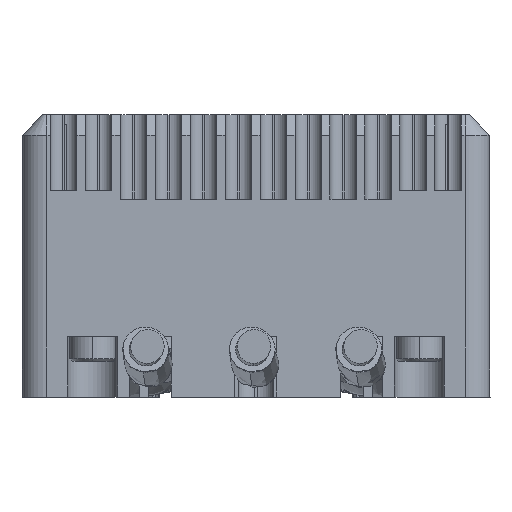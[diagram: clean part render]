
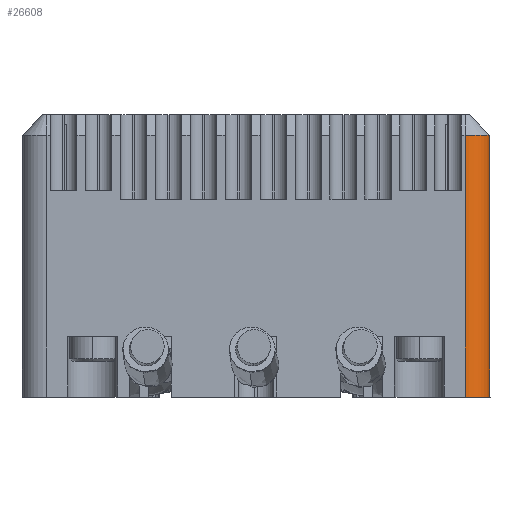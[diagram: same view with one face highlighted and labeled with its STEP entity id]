
A CAD part, left-side view. The second image highlights one B-rep face of the part: STEP entity #26608.
In plain terms, the highlighted cylindrical face has radius 3 mm (diameter 6 mm), a partial arc.
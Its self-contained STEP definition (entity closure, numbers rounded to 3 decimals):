
#442 = EDGE_CURVE ( 'NONE', #28798, #45400, #49442, .T. ) ;
#1954 = CARTESIAN_POINT ( 'NONE',  ( -20.775, 36.536, 83.399 ) ) ;
#4935 = LINE ( 'NONE', #43516, #47250 ) ;
#6510 = CARTESIAN_POINT ( 'NONE',  ( -17.775, 33.536, 83.399 ) ) ;
#6698 = DIRECTION ( 'NONE',  ( 0., 0., -1. ) ) ;
#9267 = DIRECTION ( 'NONE',  ( -1., 0., 0. ) ) ;
#9897 = ORIENTED_EDGE ( 'NONE', *, *, #29771, .T. ) ;
#10381 = ORIENTED_EDGE ( 'NONE', *, *, #55938, .F. ) ;
#12160 = EDGE_CURVE ( 'NONE', #28798, #43832, #39301, .T. ) ;
#14175 = DIRECTION ( 'NONE',  ( 1., 0., 0. ) ) ;
#14704 = EDGE_CURVE ( 'NONE', #29870, #45400, #4935, .T. ) ;
#20931 = CARTESIAN_POINT ( 'NONE',  ( -17.775, 33.536, 96.199 ) ) ;
#21536 = DIRECTION ( 'NONE',  ( -1., 0., 0. ) ) ;
#22667 = CARTESIAN_POINT ( 'NONE',  ( -17.775, 33.536, 111.502 ) ) ;
#22686 = LINE ( 'NONE', #64430, #65122 ) ;
#24608 = ORIENTED_EDGE ( 'NONE', *, *, #14704, .T. ) ;
#25478 = VERTEX_POINT ( 'NONE', #1954 ) ;
#26608 = ADVANCED_FACE ( 'NONE', ( #47175 ), #30177, .T. ) ;
#27226 = DIRECTION ( 'NONE',  ( 0., 0., 1. ) ) ;
#28798 = VERTEX_POINT ( 'NONE', #67234 ) ;
#29771 = EDGE_CURVE ( 'NONE', #25478, #29870, #49703, .T. ) ;
#29870 = VERTEX_POINT ( 'NONE', #6510 ) ;
#30143 = DIRECTION ( 'NONE',  ( 0., 0., -1. ) ) ;
#30177 = CYLINDRICAL_SURFACE ( 'NONE', #52841, 3. ) ;
#36743 = ORIENTED_EDGE ( 'NONE', *, *, #12160, .T. ) ;
#38230 = DIRECTION ( 'NONE',  ( 0., 0., 1. ) ) ;
#39301 = CIRCLE ( 'NONE', #52631, 3. ) ;
#40959 = CARTESIAN_POINT ( 'NONE',  ( -17.775, 36.536, 92.199 ) ) ;
#43073 = ORIENTED_EDGE ( 'NONE', *, *, #442, .F. ) ;
#43516 = CARTESIAN_POINT ( 'NONE',  ( -17.775, 33.536, 92.699 ) ) ;
#43712 = CARTESIAN_POINT ( 'NONE',  ( -20.775, 36.536, 114.846 ) ) ;
#43832 = VERTEX_POINT ( 'NONE', #43712 ) ;
#45400 = VERTEX_POINT ( 'NONE', #20931 ) ;
#47175 = FACE_OUTER_BOUND ( 'NONE', #49911, .T. ) ;
#47250 = VECTOR ( 'NONE', #53269, 1000. ) ;
#47967 = CARTESIAN_POINT ( 'NONE',  ( -17.775, 36.536, 83.399 ) ) ;
#48910 = VECTOR ( 'NONE', #6698, 1000. ) ;
#49442 = LINE ( 'NONE', #22667, #48910 ) ;
#49703 = CIRCLE ( 'NONE', #59687, 3. ) ;
#49911 = EDGE_LOOP ( 'NONE', ( #43073, #36743, #10381, #9897, #24608 ) ) ;
#52631 = AXIS2_PLACEMENT_3D ( 'NONE', #62135, #30143, #9267 ) ;
#52841 = AXIS2_PLACEMENT_3D ( 'NONE', #40959, #56935, #14175 ) ;
#53269 = DIRECTION ( 'NONE',  ( 0., 0., 1. ) ) ;
#55938 = EDGE_CURVE ( 'NONE', #25478, #43832, #22686, .T. ) ;
#56935 = DIRECTION ( 'NONE',  ( 0., 0., 1. ) ) ;
#59687 = AXIS2_PLACEMENT_3D ( 'NONE', #47967, #38230, #21536 ) ;
#62135 = CARTESIAN_POINT ( 'NONE',  ( -17.775, 36.536, 114.846 ) ) ;
#64430 = CARTESIAN_POINT ( 'NONE',  ( -20.775, 36.536, 92.199 ) ) ;
#65122 = VECTOR ( 'NONE', #27226, 1000. ) ;
#67234 = CARTESIAN_POINT ( 'NONE',  ( -17.775, 33.536, 114.846 ) ) ;
